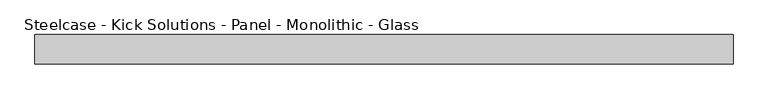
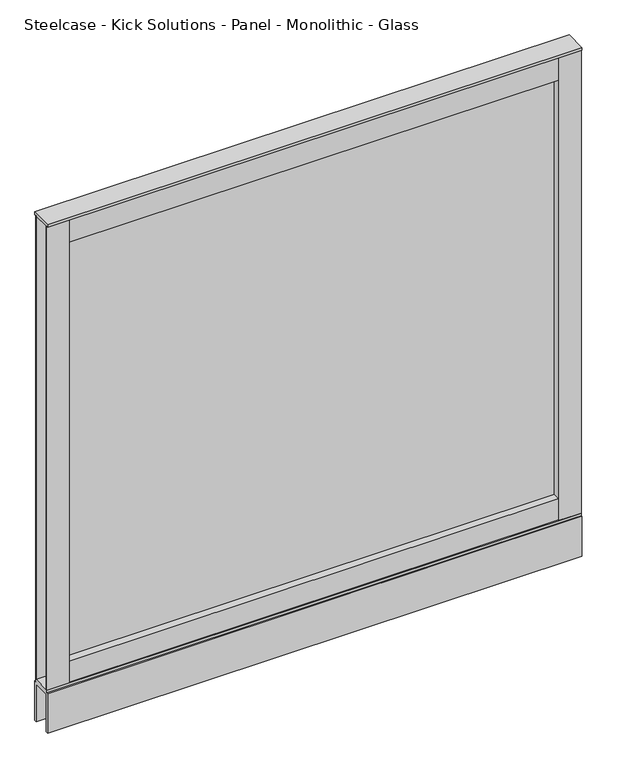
"""IFC4 building model written with IfcOpenShell, lengths in millimetres: furniture geometry, Steelcase - Kick Solutions - Panel - Monolithic - Glass : 48H x 48W."""

from ifc_helpers import new_model, si_unit, frame, origin, place, context, project, spatial, polyline, outline, extrude, source, transform, mapped, element, save


def steelcase_kick_solutions_panel_monolithic_glass_0612e593(model_context):
    return source(origin(), model_context, "Body", "SweptSolid", [
        extrude(outline(polyline([(1168.4006661, -5.08), (1168.4006661, -45.7200015), (50.8006646, -45.7200015), (50.8006646, -5.08), (1168.4006661, -5.08)])), frame((0.0, 0.0, 101.7169049), z_axis=(0.0, 0.0, 1.0), x_axis=(1.0, 0.0, 0.0)), (0.0, 0.0, 1.0), 50.6830951),
        extrude(outline(polyline([(1168.4006661, -5.08), (1168.4006661, -45.7200015), (50.8006646, -45.7200015), (50.8006646, -5.08), (1168.4006661, -5.08)])), frame((0.0, 0.0, 1162.05), z_axis=(0.0, 0.0, 1.0), x_axis=(1.0, 0.0, 0.0)), (0.0, 0.0, 1.0), 57.15),
        extrude(outline(polyline([(50.8006646, -3.1743148), (50.8006646, -47.6243142), (0.0, -47.6243142), (0.0, -45.7200015), (47.7526646, -45.7200015), (47.7526646, -5.08), (0.0, -5.08), (0.0, -3.1743148), (50.8006646, -3.1743148)])), frame((0.0, 0.0, 101.7169049), z_axis=(0.0, 0.0, 1.0), x_axis=(1.0, 0.0, 0.0)), (0.0, 0.0, 1.0), 1117.4830951),
        extrude(outline(polyline([(1168.4006661, -3.1743148), (1219.2, -3.1743148), (1219.2, -5.08), (1171.4486661, -5.08), (1171.4486661, -45.7200015), (1219.2, -45.7200015), (1219.2, -47.6243142), (1168.4006661, -47.6243142), (1168.4006661, -3.1743148)])), frame((0.0, 0.0, 101.7169049), z_axis=(0.0, 0.0, 1.0), x_axis=(1.0, 0.0, 0.0)), (0.0, 0.0, 1.0), 1117.4830951),
        extrude(outline(polyline([(1168.4006661, -28.422537), (50.8006646, -28.422537), (50.8006646, -25.4), (1168.4006661, -25.4), (1168.4006661, -28.422537)])), frame((0.0, 0.0, 152.4), z_axis=(0.0, 0.0, 1.0), x_axis=(1.0, 0.0, 0.0)), (0.0, 0.0, 1.0), 1009.65),
        extrude(outline(polyline([(1219.2, 0.0), (1219.2, -50.8000015), (0.0, -50.8000015), (0.0, 0.0), (1219.2, 0.0)])), frame((0.0, 0.0, 1219.2), z_axis=(0.0, 0.0, 1.0), x_axis=(1.0, 0.0, 0.0)), (0.0, 0.0, 1.0), 6.35),
        extrude(outline(polyline([(0.0, 0.0), (-5.08, 0.0), (-5.08, 90.2869018), (-45.7200015, 90.2869018), (-45.7200015, 0.0), (-50.8000015, 0.0), (-50.8000015, 95.3669018), (-47.6243142, 95.3669018), (-47.6243142, 101.7169049), (-3.1743148, 101.7169049), (-3.1743148, 95.3669018), (0.0, 95.3669018), (0.0, 0.0)])), frame((0.0, 0.0, 0.0), z_axis=(1.0, 0.0, 0.0), x_axis=(0.0, 1.0, 0.0)), (0.0, 0.0, 1.0), 1219.2),
    ])


if __name__ == "__main__":
    model = new_model("IFC4")
    model_context = context("Model", 3, world=origin())
    ifc_project = project(units=[si_unit("LENGTHUNIT", "METRE", prefix="MILLI")], contexts=[model_context])
    site = spatial("IfcSite", under=ifc_project)
    building = spatial("IfcBuilding", under=site)
    placement = place(None, origin())
    steelcase_kick_solutions_panel_monolithic_glass_shape = steelcase_kick_solutions_panel_monolithic_glass_0612e593(model_context)
    element("IfcFurniture", 1, ObjectType="Steelcase - Kick Solutions - Panel - Monolithic - Glass : 48H x 48W", at=placement, inside=building, context=model_context, shape_type="MappedRepresentation", body=[
        mapped(steelcase_kick_solutions_panel_monolithic_glass_shape, transform((0.0, 0.0, 0.0), x_axis=(1.0, 0.0, 0.0), y_axis=(0.0, 1.0, 0.0), z_axis=(0.0, 0.0, 1.0))),
    ])
    save(model, "model.ifc")
